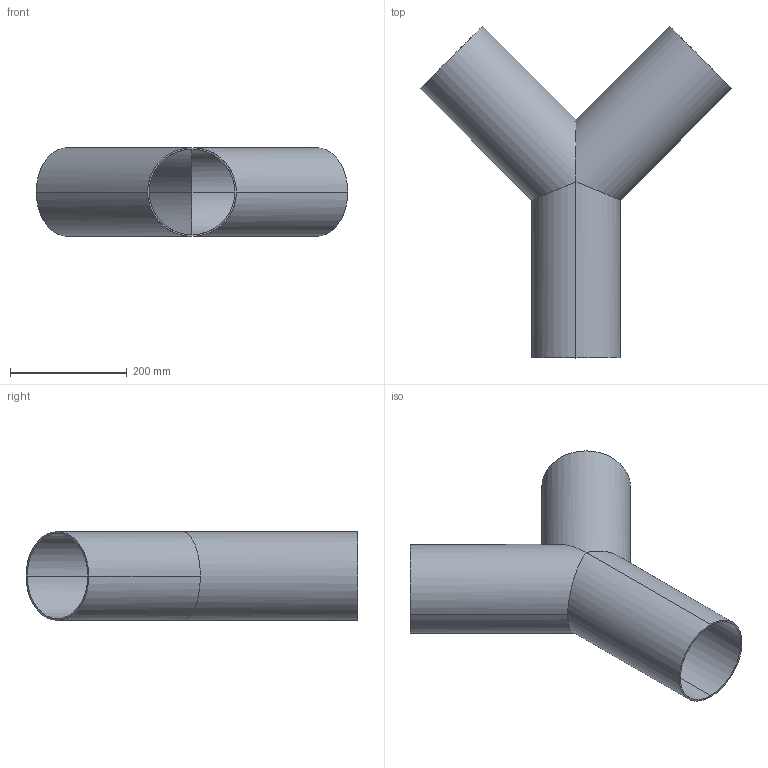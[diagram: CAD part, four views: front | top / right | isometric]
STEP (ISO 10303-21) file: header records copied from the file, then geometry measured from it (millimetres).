
FILE_DESCRIPTION (( 'STEP AP214' ), '1' );
FILE_NAME ('TE28WB6L6.0-...STEP', '2016-05-25T04:31:54', ( 'eran' ), ( '' ), 'SwSTEP 2.0', 'SolidWorks 2016', '' );
FILE_SCHEMA (( 'AUTOMOTIVE_DESIGN' ));
Length unit declared in the file: millimetre
Products named in the file (1): TE28WB6L6.0-..
Bounding box: 535.14 x 569.77 x 152.4 mm (x, y, z)
Volume: 1067086.5 mm3; surface area: 774347.2 mm2
Topology: 1 solids, 1 shells, 15 faces, 36 edges, 22 vertices
Faces by surface type: cylinder 12, plane 3
Entity records: 476 total; most frequent: CARTESIAN_POINT 110, ORIENTED_EDGE 72, DIRECTION 68, EDGE_CURVE 36, AXIS2_PLACEMENT_3D 28, VERTEX_POINT 22, EDGE_LOOP 18, FACE_OUTER_BOUND 15
